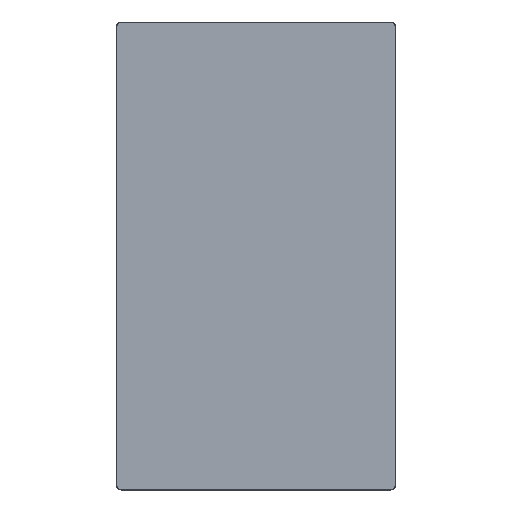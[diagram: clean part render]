
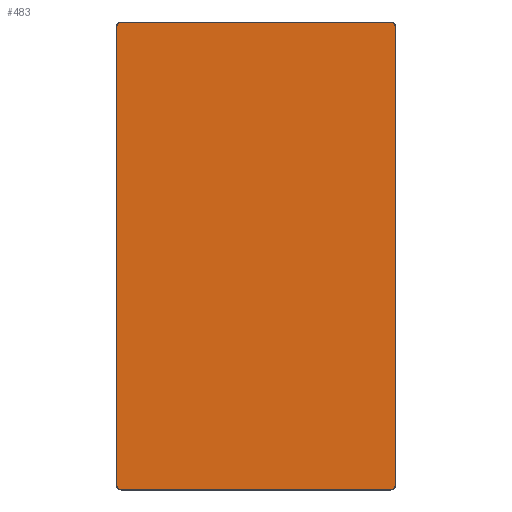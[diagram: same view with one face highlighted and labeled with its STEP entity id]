
A CAD part, top view. The second image highlights one B-rep face of the part: STEP entity #483.
In plain terms, the highlighted planar face has unit normal (0, 0, 1).
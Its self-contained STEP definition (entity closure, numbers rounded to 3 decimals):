
#19=PLANE('',#562);
#38=LINE('',#825,#74);
#40=LINE('',#828,#76);
#48=LINE('',#840,#84);
#50=LINE('',#843,#86);
#74=VECTOR('',#673,10.);
#76=VECTOR('',#677,10.);
#84=VECTOR('',#693,10.);
#86=VECTOR('',#697,10.);
#135=FACE_OUTER_BOUND('',#167,.T.);
#167=EDGE_LOOP('',(#402,#403,#404,#405,#406,#407,#408,#409));
#181=CIRCLE('',#513,4.5);
#189=CIRCLE('',#523,4.5);
#193=CIRCLE('',#528,4.5);
#205=CIRCLE('',#544,4.5);
#211=VERTEX_POINT('',#742);
#213=VERTEX_POINT('',#746);
#219=VERTEX_POINT('',#760);
#221=VERTEX_POINT('',#764);
#223=VERTEX_POINT('',#769);
#225=VERTEX_POINT('',#773);
#235=VERTEX_POINT('',#799);
#237=VERTEX_POINT('',#803);
#253=EDGE_CURVE('',#213,#211,#181,.T.);
#261=EDGE_CURVE('',#221,#219,#189,.T.);
#265=EDGE_CURVE('',#225,#223,#193,.T.);
#279=EDGE_CURVE('',#237,#235,#205,.T.);
#290=EDGE_CURVE('',#223,#237,#38,.T.);
#292=EDGE_CURVE('',#235,#221,#40,.T.);
#300=EDGE_CURVE('',#211,#225,#48,.T.);
#302=EDGE_CURVE('',#219,#213,#50,.T.);
#402=ORIENTED_EDGE('',*,*,#279,.F.);
#403=ORIENTED_EDGE('',*,*,#290,.F.);
#404=ORIENTED_EDGE('',*,*,#265,.F.);
#405=ORIENTED_EDGE('',*,*,#300,.F.);
#406=ORIENTED_EDGE('',*,*,#253,.F.);
#407=ORIENTED_EDGE('',*,*,#302,.F.);
#408=ORIENTED_EDGE('',*,*,#261,.F.);
#409=ORIENTED_EDGE('',*,*,#292,.F.);
#483=ADVANCED_FACE('',(#135),#19,.T.);
#513=AXIS2_PLACEMENT_3D('',#748,#583,#584);
#523=AXIS2_PLACEMENT_3D('',#766,#603,#604);
#528=AXIS2_PLACEMENT_3D('',#775,#613,#614);
#544=AXIS2_PLACEMENT_3D('',#805,#647,#648);
#562=AXIS2_PLACEMENT_3D('',#849,#705,#706);
#583=DIRECTION('center_axis',(0.,0.,-1.));
#584=DIRECTION('ref_axis',(-0.707,0.707,0.));
#603=DIRECTION('center_axis',(0.,0.,-1.));
#604=DIRECTION('ref_axis',(-0.707,-0.707,0.));
#613=DIRECTION('center_axis',(0.,0.,-1.));
#614=DIRECTION('ref_axis',(0.707,0.707,0.));
#647=DIRECTION('center_axis',(0.,0.,-1.));
#648=DIRECTION('ref_axis',(0.707,-0.707,0.));
#673=DIRECTION('',(0.,-1.,0.));
#677=DIRECTION('',(-1.,0.,0.));
#693=DIRECTION('',(1.,0.,0.));
#697=DIRECTION('',(0.,1.,0.));
#705=DIRECTION('center_axis',(0.,0.,1.));
#706=DIRECTION('ref_axis',(1.,0.,0.));
#742=CARTESIAN_POINT('',(5.,519.5,4.));
#746=CARTESIAN_POINT('',(0.5,515.,4.));
#748=CARTESIAN_POINT('Origin',(5.,515.,4.));
#760=CARTESIAN_POINT('',(0.5,5.,4.));
#764=CARTESIAN_POINT('',(5.,0.5,4.));
#766=CARTESIAN_POINT('Origin',(5.,5.,4.));
#769=CARTESIAN_POINT('',(309.5,515.,4.));
#773=CARTESIAN_POINT('',(305.,519.5,4.));
#775=CARTESIAN_POINT('Origin',(305.,515.,4.));
#799=CARTESIAN_POINT('',(305.,0.5,4.));
#803=CARTESIAN_POINT('',(309.5,5.,4.));
#805=CARTESIAN_POINT('Origin',(305.,5.,4.));
#825=CARTESIAN_POINT('',(309.5,130.,4.));
#828=CARTESIAN_POINT('',(77.5,0.5,4.));
#840=CARTESIAN_POINT('',(232.5,519.5,4.));
#843=CARTESIAN_POINT('',(0.5,390.,4.));
#849=CARTESIAN_POINT('Origin',(155.,260.,4.));
